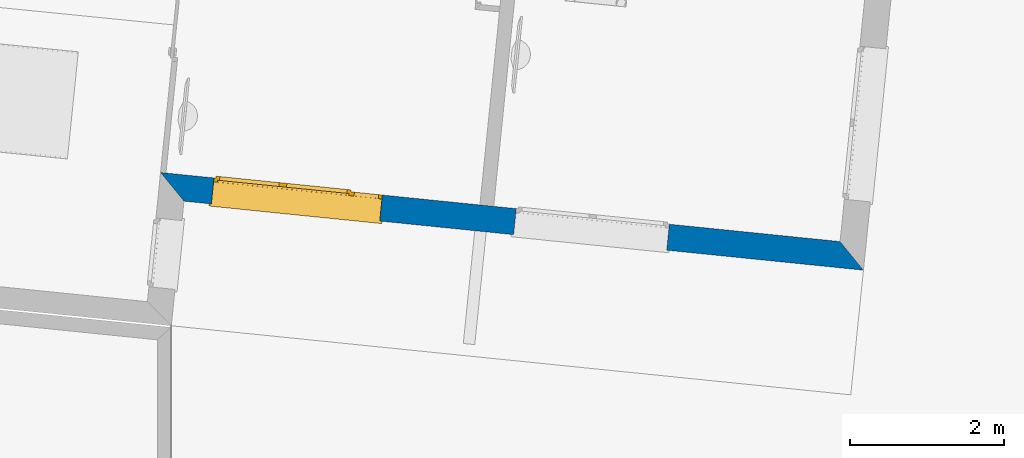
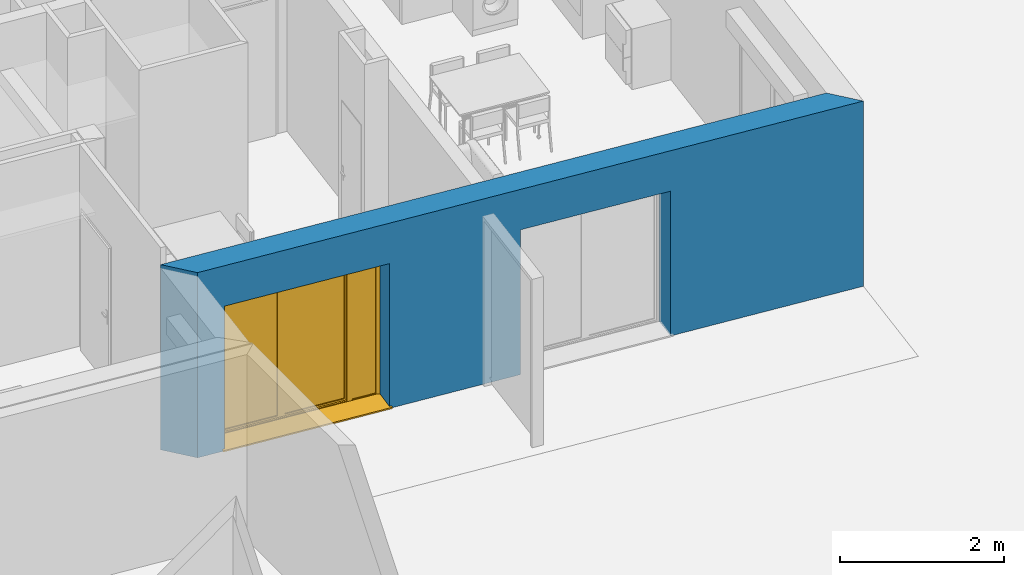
# One storey, part 58 of 171: 1 wall, 1 window, 2 openings.
"""IFC2X3 building model written with IfcOpenShell, lengths in millimetres."""

import ifcopenshell
import ifcopenshell.guid

model = None  # the IFC model being written
_history = None  # IfcOwnerHistory: only IFC2X3 demands one
_inside = {}  # id of a spatial element -> (the spatial element, [elements in it])
_under = {}  # id of a project, library or spatial element -> (it, [spatial elements below it])
_declared = {}  # id of a project -> (the project, [libraries it declares])
_typed = {}  # id of a type object -> (the type object, [elements of that type])
_made_of = {}  # id of a material, layer set ... -> (it, [elements and type objects made of it])


def new_model(schema):
    """Start an empty IFC model of exactly this schema.

    Asked for "IFC4X3", IfcOpenShell would pick the latest addendum, in which some entities
    have other attributes; the version numbers below select the first issue.
    IFC2X3 requires an IfcOwnerHistory on every rooted entity: one is made here for all.
    """
    global model, _history
    if schema == "IFC4X3":
        model = ifcopenshell.file(schema_version=(4, 3, 0, 0))
    else:
        model = ifcopenshell.file(schema=schema)
    _inside.clear()
    _under.clear()
    _declared.clear()
    _typed.clear()
    _made_of.clear()
    _history = None
    if model.schema == "IFC2X3":
        org = make("IfcOrganization", Name="unknown")
        user = make(
            "IfcPersonAndOrganization",
            ThePerson=make("IfcPerson", FamilyName="unknown"),
            TheOrganization=org,
        )
        app = make(
            "IfcApplication",
            ApplicationDeveloper=org,
            Version="unknown",
            ApplicationFullName="unknown",
            ApplicationIdentifier="unknown",
        )
        _history = make(
            "IfcOwnerHistory",
            OwningUser=user,
            OwningApplication=app,
            ChangeAction="ADDED",
            CreationDate=0,
        )
    return model


def make(cls, **values):
    """One entity of the class cls with the attributes given. An attribute that is None is left unset."""
    return model.create_entity(
        cls, **{name: value for name, value in values.items() if value is not None}
    )


def entity(cls, *values):
    """Any entity or typed value of the class cls, its attributes in the order of the schema. None: left unset."""
    e = model.create_entity(cls)
    for i, value in enumerate(values):
        if value is not None:
            e[i] = value
    return e


def rooted(cls, **values):
    """An entity with a GlobalId (a new one), such as an element, a storey or a relation."""
    return make(cls, GlobalId=ifcopenshell.guid.new(), OwnerHistory=_history, **values)


def si_unit(unit_type, name, prefix=None):
    """IfcSIUnit, for example si_unit("LENGTHUNIT", "METRE", prefix="MILLI")."""
    return make("IfcSIUnit", UnitType=unit_type, Prefix=prefix, Name=name)


def converted_unit(unit_type, name, factor, base, dimensions=None, offset=None):
    """IfcConversionBasedUnit, such as the inch: factor (a typed value) times the base unit."""
    return make(
        "IfcConversionBasedUnit"
        if offset is None
        else "IfcConversionBasedUnitWithOffset",
        ConversionOffset=offset,
        Dimensions=None
        if dimensions is None
        else entity("IfcDimensionalExponents", *dimensions),
        UnitType=unit_type,
        Name=name,
        ConversionFactor=make(
            "IfcMeasureWithUnit", ValueComponent=factor, UnitComponent=base
        ),
    )


def derived_unit(unit_type, elements):
    """IfcDerivedUnit: a product of units, each with its exponent."""
    return make(
        "IfcDerivedUnit",
        Elements=[
            make("IfcDerivedUnitElement", Unit=unit, Exponent=power)
            for unit, power in elements
        ],
        UnitType=unit_type,
    )


def money_unit(currency):
    """IfcMonetaryUnit."""
    return make("IfcMonetaryUnit", Currency=currency)


def assignment(units):
    """IfcUnitAssignment: the units of a project."""
    return None if units is None else make("IfcUnitAssignment", Units=units)


def point(xyz):
    """IfcCartesianPoint."""
    return None if xyz is None else make("IfcCartesianPoint", Coordinates=xyz)


def direction(xyz):
    """IfcDirection."""
    return None if xyz is None else make("IfcDirection", DirectionRatios=xyz)


def frame(location, z_axis=None, x_axis=None):
    """IfcAxis2Placement3D, a coordinate frame: its origin and axes. An axis left out is left unset."""
    return make(
        "IfcAxis2Placement3D",
        Location=point(location),
        Axis=direction(z_axis),
        RefDirection=direction(x_axis),
    )


def origin_with_axes():
    """The frame at (0, 0, 0) with the z axis (0, 0, 1) and the x axis (1, 0, 0) written out."""
    return frame((0.0, 0.0, 0.0), z_axis=(0.0, 0.0, 1.0), x_axis=(1.0, 0.0, 0.0))


def place(relative_to, where):
    """IfcLocalPlacement: puts the frame where relative to a parent placement (None: the world)."""
    return make(
        "IfcLocalPlacement", PlacementRelTo=relative_to, RelativePlacement=where
    )


def context(
    kind, dimensions, precision=None, world=None, true_north=None, identifier=None
):
    """IfcGeometricRepresentationContext, for example the 3D "Model" context."""
    return make(
        "IfcGeometricRepresentationContext",
        ContextIdentifier=identifier,
        ContextType=kind,
        CoordinateSpaceDimension=dimensions,
        Precision=precision,
        WorldCoordinateSystem=world,
        TrueNorth=true_north,
    )


def subcontext(parent, identifier, kind, view, scale=None):
    """IfcGeometricRepresentationSubContext, for example "Body" below "Model"."""
    return make(
        "IfcGeometricRepresentationSubContext",
        ContextIdentifier=identifier,
        ContextType=kind,
        ParentContext=parent,
        TargetScale=scale,
        TargetView=view,
    )


def project(units=None, contexts=None):
    """IfcProject with its units and contexts."""
    return rooted(
        "IfcProject",
        Name="project",
        RepresentationContexts=contexts,
        UnitsInContext=assignment(units),
    )


def spatial(cls, under=None, at=None, **own):
    """A site, building, storey or space (cls), placed at a placement, below another one or the project."""
    s = rooted(cls, ObjectPlacement=at, **own)
    if under is not None:
        _under.setdefault(under.id(), (under, []))[1].append(s)
    return s


def polyline(points):
    """IfcPolyline through the points."""
    return make("IfcPolyline", Points=[point(p) for p in points])


def outline(outer, holes=None, kind="AREA"):
    """IfcArbitraryClosedProfileDef: a profile drawn as a closed curve; with holes, ...WithVoids."""
    if holes is None:
        return make("IfcArbitraryClosedProfileDef", ProfileType=kind, OuterCurve=outer)
    return make(
        "IfcArbitraryProfileDefWithVoids",
        ProfileType=kind,
        OuterCurve=outer,
        InnerCurves=holes,
    )


def extrude(swept, where, along, depth):
    """IfcExtrudedAreaSolid: the profile swept, set in the frame where, extruded along a direction by depth."""
    return make(
        "IfcExtrudedAreaSolid",
        SweptArea=swept,
        Position=where,
        ExtrudedDirection=direction(along),
        Depth=depth,
    )


def faces_of(points, faces, orient=None, outer=None):
    """IfcFace entities. A face is a list of loops; a loop is a list of indices into points, from 0.

    orient and outer hold one flag for each loop. By default every Orientation is true, the
    first loop of a face is its IfcFaceOuterBound and the others are IfcFaceBound.
    """
    made = []
    for i, loops in enumerate(faces):
        bounds = []
        for j, loop in enumerate(loops):
            is_outer = j == 0 if outer is None else outer[i][j]
            bounds.append(
                make(
                    "IfcFaceOuterBound" if is_outer else "IfcFaceBound",
                    Bound=make("IfcPolyLoop", Polygon=[points[k] for k in loop]),
                    Orientation=True if orient is None else orient[i][j],
                )
            )
        made.append(make("IfcFace", Bounds=bounds))
    return made


def open_shell(faces, orient=None, outer=None):
    """The faces of one IfcOpenShell. surface_model builds it on its shared points."""
    return ("IfcOpenShell", faces, orient, outer)


def faceted_brep(points, faces, orient=None, outer=None, voids=None):
    """IfcFacetedBrep: a solid bounded by flat faces; with voids (closed shells), ...WithVoids."""
    shared = [point(p) for p in points]
    hull = make("IfcClosedShell", CfsFaces=faces_of(shared, faces, orient, outer))
    if voids is None:
        return make("IfcFacetedBrep", Outer=hull)
    return make(
        "IfcFacetedBrepWithVoids",
        Outer=hull,
        Voids=[
            make(cls, CfsFaces=faces_of(shared, fs, o, b)) for cls, fs, o, b in voids
        ],
    )


def surface_model(cls, points, shells):
    """IfcFaceBasedSurfaceModel or IfcShellBasedSurfaceModel (cls): surfaces that need not close."""
    shared = [point(p) for p in points]
    made = [make(c, CfsFaces=faces_of(shared, fs, o, b)) for c, fs, o, b in shells]
    if cls == "IfcFaceBasedSurfaceModel":
        return make(cls, FbsmFaces=made)
    return make(cls, SbsmBoundary=made)


def shape(context_of_items, identifier, shape_type, items):
    """IfcShapeRepresentation: the items that make up one representation, for example the "Body"."""
    return make(
        "IfcShapeRepresentation",
        ContextOfItems=context_of_items,
        RepresentationIdentifier=identifier,
        RepresentationType=shape_type,
        Items=items,
    )


def source(mapping_origin, context_of_items, identifier, shape_type, items):
    """IfcRepresentationMap: a shape defined once, which mapped items show again and again."""
    return make(
        "IfcRepresentationMap",
        MappingOrigin=mapping_origin,
        MappedRepresentation=shape(context_of_items, identifier, shape_type, items),
    )


def transform(
    local_origin,
    x_axis=None,
    y_axis=None,
    z_axis=None,
    scale=None,
    scale2=None,
    scale3=None,
    uniform=True,
):
    """IfcCartesianTransformationOperator3D, or its non-uniform kind. x_axis, y_axis, z_axis: its Axis1, 2, 3."""
    if uniform:
        return make(
            "IfcCartesianTransformationOperator3D",
            Axis1=direction(x_axis),
            Axis2=direction(y_axis),
            LocalOrigin=point(local_origin),
            Scale=scale,
            Axis3=direction(z_axis),
        )
    return make(
        "IfcCartesianTransformationOperator3DnonUniform",
        Axis1=direction(x_axis),
        Axis2=direction(y_axis),
        LocalOrigin=point(local_origin),
        Scale=scale,
        Axis3=direction(z_axis),
        Scale2=scale2,
        Scale3=scale3,
    )


def mapped(mapping_source, mapping_target):
    """IfcMappedItem: shows the shape of a source again, moved by a transform."""
    return make(
        "IfcMappedItem", MappingSource=mapping_source, MappingTarget=mapping_target
    )


def material(Name=None, Category=None):
    """IfcMaterial."""
    return make("IfcMaterial", Name=Name, Category=Category)


def layer(
    of_material, thickness, ventilated=None, Name=None, Category=None, Priority=None
):
    """IfcMaterialLayer: one layer of a wall or slab, of a material (None: an air gap)."""
    return make(
        "IfcMaterialLayer",
        Material=of_material,
        LayerThickness=thickness,
        IsVentilated=ventilated,
        Name=Name,
        Category=Category,
        Priority=Priority,
    )


def layer_set(layers, Name=None):
    """IfcMaterialLayerSet."""
    return make("IfcMaterialLayerSet", MaterialLayers=layers, LayerSetName=Name)


def layer_usage(for_layer_set, set_direction, sense, offset, extent=None):
    """IfcMaterialLayerSetUsage: how a layer set lies in its element."""
    return make(
        "IfcMaterialLayerSetUsage",
        ForLayerSet=for_layer_set,
        LayerSetDirection=set_direction,
        DirectionSense=sense,
        OffsetFromReferenceLine=offset,
        ReferenceExtent=extent,
    )


def made_of(thing, what):
    """Note that an element or type object is made of a material, layer set ...; save() writes the relation."""
    if what is not None:
        _made_of.setdefault(what.id(), (what, []))[1].append(thing)
    return thing


def type_object(cls, material=None, **own):
    """A type object (cls), such as IfcWallType, which elements share."""
    return made_of(rooted(cls, **own), material)


def element(
    cls,
    number,
    at=None,
    inside=None,
    cuts=None,
    type_object=None,
    material=None,
    context=None,
    identifier="Body",
    shape_type=None,
    held_by="IfcProductDefinitionShape",
    body=None,
    shapes=None,
    **own,
):
    """One element of the class cls, such as IfcWall. Its Tag is "e" and its number.

    at: its placement. inside: the storey or other place that contains it. cuts: it is an
    opening in that element (IfcRelVoidsElement). A single representation is given by context,
    identifier, shape_type and body (its items); several are given by shapes. held_by: the class
    of the entity that holds the representations. save() writes the other relations.
    """
    e = rooted(cls, Tag="e%d" % number, ObjectPlacement=at, **own)
    if body is not None:
        shapes = [shape(context, identifier, shape_type, body)]
    if shapes is not None:
        e.Representation = make(held_by, Representations=shapes)
    if inside is not None:
        _inside.setdefault(inside.id(), (inside, []))[1].append(e)
    if cuts is not None:
        rooted(
            "IfcRelVoidsElement", RelatingBuildingElement=cuts, RelatedOpeningElement=e
        )
    if type_object is not None:
        _typed.setdefault(type_object.id(), (type_object, []))[1].append(e)
    return made_of(e, material)


def fill(opening, filler):
    """IfcRelFillsElement: the door or window that sits in an opening."""
    return rooted(
        "IfcRelFillsElement",
        RelatingOpeningElement=opening,
        RelatedBuildingElement=filler,
    )


def aggregate(whole, parts):
    """IfcRelAggregates: a whole, such as a stair, and the parts it consists of."""
    return rooted("IfcRelAggregates", RelatingObject=whole, RelatedObjects=parts)


def save(model, path):
    """Write the relations noted so far, then the file.

    IfcRelAggregates (storeys below a building ...), IfcRelContainedInSpatialStructure (elements
    in a storey), IfcRelDefinesByType, IfcRelAssociatesMaterial and IfcRelDeclares: one each for
    every whole, place, type object, material and project.
    """
    for whole, parts in _under.values():
        aggregate(whole, parts)
    for where, things in _inside.values():
        rooted(
            "IfcRelContainedInSpatialStructure",
            RelatedElements=things,
            RelatingStructure=where,
        )
    for kind, things in _typed.values():
        rooted("IfcRelDefinesByType", RelatedObjects=things, RelatingType=kind)
    for what, things in _made_of.values():
        rooted("IfcRelAssociatesMaterial", RelatedObjects=things, RelatingMaterial=what)
    for by, libraries in _declared.values():
        rooted("IfcRelDeclares", RelatingContext=by, RelatedDefinitions=libraries)
    model.write(path)


model = new_model("IFC2X3")

# Units and contexts
model_context = context("Model", 3, precision=0.01, world=origin_with_axes(), true_north=direction((0.0, 1.0)))
body_context = subcontext(model_context, "Body", "Model", "MODEL_VIEW")
ifc_project = project(units=[si_unit("LENGTHUNIT", "METRE", prefix="MILLI"), si_unit("AREAUNIT", "SQUARE_METRE"), si_unit("VOLUMEUNIT", "CUBIC_METRE"), converted_unit("PLANEANGLEUNIT", "DEGREE", entity("IfcPlaneAngleMeasure", 0.0174532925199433), si_unit("PLANEANGLEUNIT", "RADIAN"), dimensions=[0, 0, 0, 0, 0, 0, 0]), money_unit("USD"), converted_unit("TIMEUNIT", "Year", entity("IfcTimeMeasure", 31557600.0), si_unit("TIMEUNIT", "SECOND"), dimensions=[0, 0, 1, 0, 0, 0, 0]), si_unit("MASSUNIT", "GRAM", prefix="KILO"), si_unit("THERMODYNAMICTEMPERATUREUNIT", "DEGREE_CELSIUS"), si_unit("LUMINOUSINTENSITYUNIT", "LUMEN"), si_unit("ENERGYUNIT", "JOULE", prefix="MEGA"), derived_unit("THERMALCONDUCTANCEUNIT", [(si_unit("POWERUNIT", "WATT"), 1), (si_unit("LENGTHUNIT", "METRE"), -1), (si_unit("THERMODYNAMICTEMPERATUREUNIT", "KELVIN"), -1)]), derived_unit("SPECIFICHEATCAPACITYUNIT", [(si_unit("ENERGYUNIT", "JOULE"), 1), (si_unit("MASSUNIT", "GRAM", prefix="KILO"), -1), (si_unit("THERMODYNAMICTEMPERATUREUNIT", "KELVIN"), -1)]), derived_unit("MASSDENSITYUNIT", [(si_unit("MASSUNIT", "GRAM", prefix="KILO"), 1), (si_unit("VOLUMEUNIT", "CUBIC_METRE"), -1)])], contexts=[model_context])

# Site, building, storey
site_placement = place(None, origin_with_axes())
site = spatial("IfcSite", under=ifc_project, at=site_placement, Name="Site", CompositionType="ELEMENT")
building_placement = place(site_placement, origin_with_axes())
building = spatial("IfcBuilding", under=site, at=building_placement, Name="Bâtiment", CompositionType="ELEMENT")
storey_placement = place(building_placement, frame((0.0, 0.0, 3000.0), z_axis=(0.0, 0.0, 1.0), x_axis=(1.0, 0.0, 0.0)))
storey = spatial("IfcBuildingStorey", under=building, at=storey_placement, Name="rdc", CompositionType="ELEMENT", Elevation=3000.0)

# Wall, openings, window
ifc_material_1 = material(Name="Parpaing 312445824")
ifc_layer_1 = layer(ifc_material_1, 180.0, ventilated="UNKNOWN")
ifc_material_2 = material(Name="Isolant styromousse 301821074")
ifc_layer_2 = layer(ifc_material_2, 160.0, ventilated="UNKNOWN")
ifc_layer_set = layer_set([ifc_layer_1, ifc_layer_2], Name="isol int 18+16 0018356637")
ifc_layer_usage = layer_usage(ifc_layer_set, "AXIS2", "POSITIVE", 0.0)
wall_type = type_object("IfcWallType", Name="isol int 18+16 0018356637 340", PredefinedType="NOTDEFINED")
wall_placement = place(storey_placement, frame((2229820.133205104, -620392.5899683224, 0.0), z_axis=(0.0, 0.0, 1.0), x_axis=(0.994875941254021, -0.1011032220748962, 0.0)))
wall = element("IfcWallStandardCase", 1, at=wall_placement, inside=storey, type_object=wall_type, material=ifc_layer_usage, Name="Mur-142", context=body_context, shape_type="SweptSolid", body=[
    extrude(outline(polyline([(0.0, 0.0), (8878.452480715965, 0.0), (8538.452480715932, 339.9999999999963), (-339.9999999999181, 339.9999999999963), (0.0, 0.0)])), origin_with_axes(), (0.0, 0.0, 1.0), 2750.0),
])
opening_1_placement = place(wall_placement, frame((1458.062560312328, 0.0, 0.0), z_axis=(0.0, 0.0, 1.0), x_axis=(1.0, 0.0, 0.0)))
opening_1 = element("IfcOpeningElement", 2, at=opening_1_placement, cuts=wall, Name="Fen-133", context=body_context, shape_type="Brep", body=[
    faceted_brep([(-1100.000000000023, 529.9999999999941, 2150.0), (1099.999999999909, 529.9999999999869, 2150.0), (1100.000000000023, 1234.040591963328, 2150.0), (-1099.999999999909, 1234.040591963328, 2150.0), (-1100.000000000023, 529.9999999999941, 2400.0), (1099.999999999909, 529.9999999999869, 2400.0), (1100.000000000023, 289.999999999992, 2150.0), (1100.000000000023, 289.999999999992, 0.0), (1100.000000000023, 1234.040591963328, 0.0), (-1099.999999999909, 1234.040591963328, 0.0), (-1100.000000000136, 289.9999999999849, 2150.0), (-1100.000000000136, 289.9999999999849, 0.0), (-1100.000000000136, 279.9999999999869, 2150.0), (-1100.000000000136, 279.9999999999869, 2400.0), (1100.000000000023, 279.999999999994, 2400.0), (1100.000000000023, 279.999999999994, 2150.0), (1099.999999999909, -894.0405919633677, 2150.0), (1099.999999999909, -894.0405919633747, 0.0), (-1100.000000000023, -894.0405919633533, 0.0), (-1100.000000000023, -894.0405919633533, 2150.0)], [[[0, 1, 2, 3]], [[1, 0, 4, 5]], [[1, 6, 7, 8, 2]], [[2, 8, 9, 3]], [[10, 0, 3, 9, 11]], [[0, 10, 12, 13, 4]], [[14, 5, 4, 13]], [[6, 1, 5, 14, 15]], [[6, 15, 16, 17, 7]], [[7, 17, 18, 11, 9, 8]], [[12, 10, 11, 18, 19]], [[12, 15, 14, 13]], [[15, 12, 19, 16]], [[19, 18, 17, 16]]]),
])
opening_2_placement = place(wall_placement, frame((5307.912898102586, 0.0, 0.0), z_axis=(0.0, 0.0, 1.0), x_axis=(1.0, 0.0, 0.0)))
element("IfcOpeningElement", 3, at=opening_2_placement, cuts=wall, Name="Fen-207", context=body_context, shape_type="Brep", body=[
    faceted_brep([(-1000.000000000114, 529.9999999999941, 2150.0), (1000.0, 529.9999999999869, 2150.0), (1000.0, 1234.040591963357, 2150.0), (-1000.0, 1234.040591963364, 2150.0), (-1000.000000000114, 529.9999999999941, 2400.0), (1000.0, 529.9999999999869, 2400.0), (999.9999999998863, 289.9999999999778, 2150.0), (999.9999999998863, 289.9999999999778, 0.0), (1000.0, 1234.040591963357, 0.0), (-1000.0, 1234.040591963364, 0.0), (-1000.000000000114, 289.9999999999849, 2150.0), (-1000.000000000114, 289.9999999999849, 0.0), (-1000.0, 279.9999999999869, 2150.0), (-1000.0, 279.9999999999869, 2400.0), (999.9999999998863, 279.999999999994, 2400.0), (999.9999999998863, 279.999999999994, 2150.0), (999.9999999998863, -894.0405919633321, 2150.0), (999.9999999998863, -894.0405919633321, 0.0), (-1000.0, -894.0405919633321, 0.0), (-1000.0, -894.0405919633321, 2150.0)], [[[0, 1, 2, 3]], [[1, 0, 4, 5]], [[1, 6, 7, 8, 2]], [[2, 8, 9, 3]], [[10, 0, 3, 9, 11]], [[0, 10, 12, 13, 4]], [[14, 5, 4, 13]], [[6, 1, 5, 14, 15]], [[6, 15, 16, 17, 7]], [[7, 17, 18, 11, 9, 8]], [[12, 10, 11, 18, 19]], [[12, 15, 14, 13]], [[15, 12, 19, 16]], [[19, 18, 17, 16]]]),
])
window_style = type_object("IfcWindowStyle", Name="Fenêtre châssis double variable 27", ConstructionType="NOTDEFINED", OperationType="TRIPLE_PANEL_VERTICAL", ParameterTakesPrecedence=False, Sizeable=False)
shared_shape = source(origin_with_axes(), body_context, "Body", "SurfaceModel", [
    surface_model("IfcShellBasedSurfaceModel", [(1100.0, -51.0, 40.00000000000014), (1100.0, -51.0, 50.00000000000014), (-1100.0, -51.0, 50.0), (-1100.0, -51.0, 40.0), (1130.0, -369.9999999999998, 28.96551724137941), (1130.0, -339.9999999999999, 30.00324289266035), (1100.0, -339.9999999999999, 30.00324289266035), (-1100.0, -339.9999999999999, 30.00324289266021), (-1130.0, -339.9999999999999, 30.00324289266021), (-1130.0, -369.9999999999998, 28.96551724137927), (1130.0, -369.9999999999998, 8.965517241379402), (-1130.0, -369.9999999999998, 8.965517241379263), (1130.0, -359.9999999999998, 18.9655172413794), (-1130.0, -359.9999999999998, 18.96551724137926)], [open_shell([[[0, 1, 2, 3]], [[4, 5, 6, 0, 3, 7, 8, 9]], [[10, 4, 9, 11]], [[12, 10, 11, 13]]])]),
    faceted_brep([(-1100.0, -60.0, 2400.0), (-1097.0, -60.0, 2400.0), (-1097.0, 189.9999999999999, 2400.0), (-1100.0, 189.9999999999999, 2400.0), (-1100.0, -60.0, 2150.0), (-1097.0, -60.0, 2150.0), (-1097.0, 189.9999999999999, 2150.0), (-1100.0, 189.9999999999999, 2150.0)], [[[0, 1, 2, 3]], [[4, 5, 1, 0]], [[1, 5, 6, 2]], [[3, 2, 6, 7]], [[0, 3, 7, 4]], [[7, 6, 5, 4]]]),
    faceted_brep([(1097.0, -59.99999999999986, 2400.0), (1100.0, -59.99999999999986, 2400.0), (1100.0, 190.0000000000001, 2400.0), (1097.0, 190.0000000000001, 2400.0), (1097.0, -59.99999999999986, 2150.0), (1100.0, -59.99999999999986, 2150.0), (1100.0, 190.0000000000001, 2150.0), (1097.0, 190.0000000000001, 2150.0)], [[[0, 1, 2, 3]], [[4, 5, 1, 0]], [[1, 5, 6, 2]], [[3, 2, 6, 7]], [[0, 3, 7, 4]], [[7, 6, 5, 4]]]),
    faceted_brep([(-1097.0, -59.99999999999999, 2150.0), (1097.0, -59.99999999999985, 2150.0), (1097.0, -59.99999999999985, 2400.0), (-1097.0, -59.99999999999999, 2400.0), (-1097.0, -56.99999999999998, 2150.0), (1097.0, -56.99999999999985, 2150.0), (1097.0, -56.99999999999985, 2397.0), (1097.0, 187.0000000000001, 2397.0), (1097.0, 187.0000000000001, 2153.0), (1097.0, -37.99999999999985, 2153.0), (1097.0, -37.99999999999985, 2150.0), (1097.0, 190.0000000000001, 2150.0), (1097.0, 190.0000000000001, 2400.0), (-1097.0, 189.9999999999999, 2400.0), (-1097.0, 189.9999999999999, 2150.0), (-1097.0, -37.99999999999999, 2150.0), (-1097.0, -37.99999999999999, 2153.0), (-1097.0, 187.0, 2153.0), (-1097.0, 187.0, 2397.0), (-1097.0, -56.99999999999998, 2397.0)], [[[0, 1, 2, 3]], [[4, 5, 1, 0]], [[1, 5, 6, 7, 8, 9, 10, 11, 12, 2]], [[3, 2, 12, 13]], [[0, 3, 13, 14, 15, 16, 17, 18, 19, 4]], [[19, 6, 5, 4]], [[18, 7, 6, 19]], [[17, 8, 7, 18]], [[16, 9, 8, 17]], [[15, 10, 9, 16]], [[14, 11, 10, 15]], [[13, 12, 11, 14]]]),
    faceted_brep([(-1094.0, -40.37442957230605, 2256.419644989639), (-1094.0, -41.99999999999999, 2275.0), (-1094.0, -40.37442957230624, 2293.580355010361), (-1094.0, -35.54711042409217, 2311.596155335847), (-1094.0, -27.66471820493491, 2328.5), (-1094.0, -16.96675541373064, 2343.77827423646), (-1094.0, -3.778274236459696, 2356.96675541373), (-1094.0, 11.5, 2367.664718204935), (-1094.0, 28.40384466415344, 2375.547110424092), (-1094.0, 46.41964498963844, 2380.374429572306), (-1094.0, 64.99999999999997, 2382.0), (-1094.0, 83.58035501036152, 2380.374429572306), (-1094.0, 101.5961553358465, 2375.547110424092), (-1094.0, 118.4999999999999, 2367.664718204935), (-1094.0, 133.7782742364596, 2356.96675541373), (-1094.0, 146.9667554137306, 2343.77827423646), (-1094.0, 157.6647182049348, 2328.5), (-1094.0, 165.5471104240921, 2311.596155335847), (-1094.0, 170.3744295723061, 2293.580355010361), (-1094.0, 171.9999999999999, 2275.0), (-1094.0, 170.3744295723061, 2256.419644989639), (-1094.0, 165.5471104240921, 2238.403844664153), (-1094.0, 157.6647182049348, 2221.5), (-1094.0, 146.9667554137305, 2206.22172576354), (-1094.0, 133.7782742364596, 2193.033244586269), (-1094.0, 118.4999999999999, 2182.335281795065), (-1094.0, 101.5961553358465, 2174.452889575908), (-1094.0, 83.58035501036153, 2169.625570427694), (-1094.0, 65.0, 2168.0), (-1094.0, 46.41964498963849, 2169.625570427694), (-1094.0, 28.40384466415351, 2174.452889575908), (-1094.0, 11.5000000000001, 2182.335281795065), (-1094.0, -3.778274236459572, 2193.033244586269), (-1094.0, -16.96675541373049, 2206.22172576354), (-1094.0, -27.66471820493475, 2221.5), (-1094.0, -35.54711042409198, 2238.403844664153), (1094.0, -40.37442957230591, 2256.419644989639), (1094.0, -41.99999999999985, 2275.0), (1094.0, -40.3744295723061, 2293.580355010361), (1094.0, -35.54711042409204, 2311.596155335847), (1094.0, -27.66471820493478, 2328.5), (1094.0, -16.9667554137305, 2343.77827423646), (1094.0, -3.778274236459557, 2356.96675541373), (1094.0, 11.50000000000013, 2367.664718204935), (1094.0, 28.40384466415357, 2375.547110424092), (1094.0, 46.41964498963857, 2380.374429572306), (1094.0, 65.00000000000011, 2382.0), (1094.0, 83.58035501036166, 2380.374429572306), (1094.0, 101.5961553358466, 2375.547110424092), (1094.0, 118.5000000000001, 2367.664718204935), (1094.0, 133.7782742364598, 2356.96675541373), (1094.0, 146.9667554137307, 2343.77827423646), (1094.0, 157.664718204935, 2328.5), (1094.0, 165.5471104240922, 2311.596155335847), (1094.0, 170.3744295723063, 2293.580355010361), (1094.0, 172.0, 2275.0), (1094.0, 170.3744295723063, 2256.419644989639), (1094.0, 165.5471104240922, 2238.403844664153), (1094.0, 157.6647182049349, 2221.5), (1094.0, 146.9667554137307, 2206.22172576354), (1094.0, 133.7782742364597, 2193.033244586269), (1094.0, 118.5000000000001, 2182.335281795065), (1094.0, 101.5961553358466, 2174.452889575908), (1094.0, 83.58035501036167, 2169.625570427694), (1094.0, 65.00000000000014, 2168.0), (1094.0, 46.41964498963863, 2169.625570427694), (1094.0, 28.40384466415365, 2174.452889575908), (1094.0, 11.50000000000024, 2182.335281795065), (1094.0, -3.778274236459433, 2193.033244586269), (1094.0, -16.96675541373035, 2206.22172576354), (1094.0, -27.66471820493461, 2221.5), (1094.0, -35.54711042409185, 2238.403844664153)], [[[0, 1, 2, 3, 4, 5, 6, 7, 8, 9, 10, 11, 12, 13, 14, 15, 16, 17, 18, 19, 20, 21, 22, 23, 24, 25, 26, 27, 28, 29, 30, 31, 32, 33, 34, 35]], [[0, 36, 37, 1]], [[1, 37, 38, 2]], [[2, 38, 39, 3]], [[3, 39, 40, 4]], [[4, 40, 41, 5]], [[5, 41, 42, 6]], [[6, 42, 43, 7]], [[7, 43, 44, 8]], [[8, 44, 45, 9]], [[9, 45, 46, 10]], [[10, 46, 47, 11]], [[11, 47, 48, 12]], [[12, 48, 49, 13]], [[13, 49, 50, 14]], [[14, 50, 51, 15]], [[15, 51, 52, 16]], [[16, 52, 53, 17]], [[17, 53, 54, 18]], [[18, 54, 55, 19]], [[19, 55, 56, 20]], [[20, 56, 57, 21]], [[21, 57, 58, 22]], [[22, 58, 59, 23]], [[23, 59, 60, 24]], [[24, 60, 61, 25]], [[25, 61, 62, 26]], [[26, 62, 63, 27]], [[27, 63, 64, 28]], [[28, 64, 65, 29]], [[29, 65, 66, 30]], [[30, 66, 67, 31]], [[31, 67, 68, 32]], [[32, 68, 69, 33]], [[33, 69, 70, 34]], [[34, 70, 71, 35]], [[35, 71, 36, 0]], [[36, 71, 70, 69, 68, 67, 66, 65, 64, 63, 62, 61, 60, 59, 58, 57, 56, 55, 54, 53, 52, 51, 50, 49, 48, 47, 46, 45, 44, 43, 42, 41, 40, 39, 38, 37]]]),
    faceted_brep([(1100.0, -34.99999999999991, 30.0), (1100.0, -34.99999999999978, 2150.0), (1100.0, -59.99999999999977, 2150.0), (1100.0, -59.99999999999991, 30.0), (1075.0, -34.99999999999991, 30.0), (1075.0, -34.99999999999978, 2150.0), (1075.0, -37.99999999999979, 2150.0), (1097.0, -37.99999999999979, 2150.0), (1097.0, -56.99999999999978, 2150.0), (1075.0, -56.99999999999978, 2150.0), (1075.0, -59.99999999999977, 2150.0), (1075.0, -59.99999999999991, 30.0), (1075.0, -56.99999999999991, 30.0), (1097.0, -56.99999999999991, 30.0), (1097.0, -37.99999999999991, 30.0), (1075.0, -37.99999999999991, 30.0)], [[[0, 1, 2, 3]], [[4, 5, 1, 0]], [[1, 5, 6, 7, 8, 9, 10, 2]], [[3, 2, 10, 11]], [[0, 3, 11, 12, 13, 14, 15, 4]], [[15, 6, 5, 4]], [[14, 7, 6, 15]], [[13, 8, 7, 14]], [[12, 9, 8, 13]], [[11, 10, 9, 12]]]),
    faceted_brep([(-1100.0, -34.99999999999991, 30.0), (-1100.0, -59.99999999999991, 30.0), (-1100.0, -59.99999999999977, 2150.0), (-1100.0, -34.99999999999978, 2150.0), (-1075.0, -34.99999999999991, 30.0), (-1075.0, -37.99999999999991, 30.0), (-1097.0, -37.99999999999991, 30.0), (-1097.0, -56.99999999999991, 30.0), (-1075.0, -56.99999999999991, 30.0), (-1075.0, -59.99999999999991, 30.0), (-1075.0, -59.99999999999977, 2150.0), (-1075.0, -56.99999999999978, 2150.0), (-1097.0, -56.99999999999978, 2150.0), (-1097.0, -37.99999999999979, 2150.0), (-1075.0, -37.99999999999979, 2150.0), (-1075.0, -34.99999999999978, 2150.0)], [[[0, 1, 2, 3]], [[0, 4, 5, 6, 7, 8, 9, 1]], [[1, 9, 10, 2]], [[3, 2, 10, 11, 12, 13, 14, 15]], [[4, 0, 3, 15]], [[5, 4, 15, 14]], [[6, 5, 14, 13]], [[7, 6, 13, 12]], [[8, 7, 12, 11]], [[9, 8, 11, 10]]]),
    faceted_brep([(1097.0, -46.6666666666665, 2275.0), (1097.0, -46.6666666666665, 2266.666666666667), (-1097.0, -46.66666666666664, 2266.666666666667), (-1097.0, -46.66666666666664, 2275.0), (1097.0, -51.66666666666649, 2275.0), (1097.0, -51.66666666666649, 2266.666666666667), (1097.0, -49.99999999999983, 2250.0), (1097.0, -44.99999999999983, 2250.0), (-1097.0, -44.99999999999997, 2250.0), (-1097.0, -49.99999999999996, 2250.0), (-1097.0, -51.66666666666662, 2266.666666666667), (-1097.0, -51.66666666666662, 2275.0)], [[[0, 1, 2, 3]], [[4, 5, 6, 7, 1, 0]], [[2, 1, 7, 8]], [[3, 2, 8, 9, 10, 11]], [[3, 11, 4, 0]], [[10, 5, 4, 11]], [[9, 6, 5, 10]], [[8, 7, 6, 9]]]),
    faceted_brep([(-1097.0, -44.99999999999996, 2250.0), (1097.0, -44.99999999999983, 2250.0), (1097.0, -46.6666666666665, 2233.333333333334), (-1097.0, -46.66666666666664, 2233.333333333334), (-1097.0, -49.99999999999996, 2250.0), (1097.0, -49.99999999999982, 2250.0), (1097.0, -51.66666666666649, 2233.333333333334), (1097.0, -51.66666666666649, 2216.666666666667), (1097.0, -49.99999999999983, 2200.0), (1097.0, -44.99999999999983, 2200.0), (1097.0, -46.6666666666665, 2216.666666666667), (-1097.0, -46.66666666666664, 2216.666666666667), (-1097.0, -44.99999999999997, 2200.0), (-1097.0, -49.99999999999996, 2200.0), (-1097.0, -51.66666666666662, 2216.666666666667), (-1097.0, -51.66666666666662, 2233.333333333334)], [[[0, 1, 2, 3]], [[4, 5, 1, 0]], [[1, 5, 6, 7, 8, 9, 10, 2]], [[3, 2, 10, 11]], [[0, 3, 11, 12, 13, 14, 15, 4]], [[15, 6, 5, 4]], [[14, 7, 6, 15]], [[13, 8, 7, 14]], [[12, 9, 8, 13]], [[11, 10, 9, 12]]]),
    faceted_brep([(-1097.0, -44.99999999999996, 2200.0), (1097.0, -44.99999999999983, 2200.0), (1097.0, -46.6666666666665, 2183.333333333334), (-1097.0, -46.66666666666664, 2183.333333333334), (-1097.0, -49.99999999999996, 2200.0), (1097.0, -49.99999999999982, 2200.0), (1097.0, -51.66666666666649, 2183.333333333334), (1097.0, -51.66666666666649, 2166.666666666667), (1097.0, -49.99999999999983, 2150.000000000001), (1097.0, -44.99999999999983, 2150.000000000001), (1097.0, -46.6666666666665, 2166.666666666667), (-1097.0, -46.66666666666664, 2166.666666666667), (-1097.0, -44.99999999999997, 2150.000000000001), (-1097.0, -49.99999999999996, 2150.000000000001), (-1097.0, -51.66666666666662, 2166.666666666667), (-1097.0, -51.66666666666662, 2183.333333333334)], [[[0, 1, 2, 3]], [[4, 5, 1, 0]], [[1, 5, 6, 7, 8, 9, 10, 2]], [[3, 2, 10, 11]], [[0, 3, 11, 12, 13, 14, 15, 4]], [[15, 6, 5, 4]], [[14, 7, 6, 15]], [[13, 8, 7, 14]], [[12, 9, 8, 13]], [[11, 10, 9, 12]]]),
    faceted_brep([(-1075.0, 0.0, 2100.0), (-1100.0, 0.0, 2100.0), (-1100.0, -50.00000000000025, 2100.0), (-1050.0, -50.00000000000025, 2100.0), (-1050.0, -25.00000000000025, 2100.0), (-1075.0, -25.00000000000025, 2100.0), (-1075.0, 0.0, 50.00000000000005), (-1100.0, 0.0, 50.00000000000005), (-1100.0, -49.99999999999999, 50.00000000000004), (-1050.0, -49.99999999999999, 50.00000000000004), (-1050.0, -25.0, 50.00000000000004), (-1075.0, -25.0, 50.00000000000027)], [[[0, 1, 2, 3, 4, 5]], [[6, 7, 1, 0]], [[1, 7, 8, 2]], [[2, 8, 9, 3]], [[4, 3, 9, 10]], [[10, 11, 5, 4]], [[5, 11, 6, 0]], [[11, 10, 9, 8, 7, 6]]]),
    faceted_brep([(664.9999999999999, -25.00000000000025, 2100.0), (664.9999999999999, -50.00000000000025, 2100.0), (735.0, -50.00000000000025, 2100.0), (735.0, 0.0, 2100.0), (690.0, 0.0, 2100.0), (690.0, -25.00000000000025, 2100.0), (664.9999999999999, -25.0, 50.00000000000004), (664.9999999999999, -49.99999999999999, 50.00000000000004), (735.0, -49.99999999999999, 50.00000000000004), (735.0, 0.0, 50.00000000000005), (690.0, 0.0, 50.00000000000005), (690.0, -25.0, 50.00000000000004)], [[[0, 1, 2, 3, 4, 5]], [[6, 7, 1, 0]], [[8, 2, 1, 7]], [[9, 3, 2, 8]], [[4, 3, 9, 10]], [[10, 11, 5, 4]], [[5, 11, 6, 0]], [[11, 10, 9, 8, 7, 6]]]),
    faceted_brep([(664.9999999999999, -25.0, 50.00000000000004), (664.9999999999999, -49.99999999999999, 50.00000000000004), (735.0, -49.99999999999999, 50.00000000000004), (735.0, 0.0, 50.00000000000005), (690.0, 0.0, 50.00000000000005), (690.0, -25.0, 50.00000000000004), (-1050.0, -25.0, 50.00000000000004), (-1050.0, -49.99999999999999, 50.00000000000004), (-1100.0, -49.99999999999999, 50.00000000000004), (-1100.0, -49.99999999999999, 0.0), (1100.0, -49.99999999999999, 0.0), (1100.0, -49.99999999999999, 50.00000000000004), (1050.0, -49.99999999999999, 50.00000000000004), (1050.0, 0.0, 50.00000000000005), (-1075.0, 0.0, 24.99999999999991), (690.0, 0.0, 24.99999999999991), (1100.0, 0.0, 50.00000000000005), (1100.0, 0.0, 0.0), (-1100.0, 0.0, 0.0), (-1100.0, 0.0, 50.00000000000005), (-1075.0, 0.0, 50.00000000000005), (690.0, -25.0, 24.99999999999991), (-1075.0, -25.0, 24.99999999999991), (-1075.0, -25.0, 50.00000000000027)], [[[0, 1, 2, 3, 4, 5]], [[6, 7, 1, 0]], [[8, 9, 10, 11, 12, 2, 1, 7]], [[13, 3, 2, 12]], [[14, 15, 4, 3, 13, 16, 17, 18, 19, 20]], [[15, 21, 5, 4]], [[5, 21, 22, 23, 6, 0]], [[23, 20, 19, 8, 7, 6]], [[19, 18, 9, 8]], [[18, 17, 10, 9]], [[17, 16, 11, 10]], [[16, 13, 12, 11]], [[14, 22, 21, 15]], [[23, 22, 14, 20]]]),
    faceted_brep([(-1075.0, 0.0, 2100.0), (-1100.0, 0.0, 2100.0), (-1100.0, 0.0, 2150.0), (1100.0, 0.0, 2150.0), (1100.0, 0.0, 2100.0), (1050.0, 0.0, 2100.0), (735.0, 0.0, 2100.0), (690.0, 0.0, 2100.0), (690.0, 0.0, 2125.0), (-1075.0, 0.0, 2125.0), (-1075.0, -25.00000000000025, 2100.0), (-1050.0, -25.00000000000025, 2100.0), (-1050.0, -50.00000000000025, 2100.0), (-1100.0, -50.00000000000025, 2100.0), (-1100.0, -50.00000000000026, 2150.0), (1100.0, -50.00000000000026, 2150.0), (1100.0, -50.00000000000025, 2100.0), (1050.0, -50.00000000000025, 2100.0), (735.0, -50.00000000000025, 2100.0), (690.0, -25.00000000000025, 2100.0), (664.9999999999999, -50.00000000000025, 2100.0), (664.9999999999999, -25.00000000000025, 2100.0), (690.0, -25.00000000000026, 2125.0), (-1075.0, -25.00000000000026, 2125.0)], [[[0, 1, 2, 3, 4, 5, 6, 7, 8, 9]], [[10, 11, 12, 13, 1, 0]], [[2, 1, 13, 14]], [[3, 2, 14, 15]], [[4, 3, 15, 16]], [[5, 4, 16, 17]], [[6, 5, 17, 18]], [[19, 7, 6, 18, 20, 21]], [[7, 19, 22, 8]], [[8, 22, 23, 9]], [[9, 23, 10, 0]], [[21, 11, 10, 23, 22, 19]], [[21, 20, 12, 11]], [[18, 17, 16, 15, 14, 13, 12, 20]]]),
    faceted_brep([(1050.0, -49.99999999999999, 50.0), (1050.0, 0.0, 50.00000000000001), (1100.0, 0.0, 50.00000000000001), (1100.0, -49.99999999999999, 50.0), (1050.0, -50.00000000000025, 2100.0), (1050.0, 0.0, 2100.0), (1100.0, 0.0, 2100.0), (1100.0, -50.00000000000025, 2100.0)], [[[0, 1, 2, 3]], [[4, 5, 1, 0]], [[1, 5, 6, 2]], [[3, 2, 6, 7]], [[0, 3, 7, 4]], [[7, 6, 5, 4]]]),
    faceted_brep([(-1025.0, -25.00000000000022, 2075.0), (-1025.0, 24.99999999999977, 2075.0), (-1075.0, 24.99999999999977, 2075.0), (-1075.0, -25.00000000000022, 2075.0), (-1025.0, -24.99999999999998, 75.00000000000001), (-1025.0, 25.00000000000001, 75.00000000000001), (-1075.0, 25.00000000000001, 75.00000000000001), (-1075.0, -24.99999999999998, 75.00000000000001)], [[[0, 1, 2, 3]], [[4, 5, 1, 0]], [[1, 5, 6, 2]], [[3, 2, 6, 7]], [[0, 3, 7, 4]], [[7, 6, 5, 4]]]),
    faceted_brep([(-249.9999999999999, -25.00000000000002, 75.00000000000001), (-249.9999999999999, 24.99999999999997, 75.00000000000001), (-199.9999999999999, 24.99999999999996, 75.00000000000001), (-199.9999999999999, -25.00000000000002, 75.00000000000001), (-249.9999999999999, -25.00000000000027, 2075.0), (-249.9999999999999, 24.99999999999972, 2075.0), (-199.9999999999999, 24.99999999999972, 2075.0), (-199.9999999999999, -25.00000000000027, 2075.0)], [[[0, 1, 2, 3]], [[4, 5, 1, 0]], [[1, 5, 6, 2]], [[3, 2, 6, 7]], [[0, 3, 7, 4]], [[7, 6, 5, 4]]]),
    faceted_brep([(-199.9999999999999, -25.00000000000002, 25.0), (-199.9999999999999, 24.99999999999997, 25.00000000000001), (-199.9999999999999, 24.99999999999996, 75.00000000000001), (-199.9999999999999, -25.00000000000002, 75.00000000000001), (-1075.0, -24.99999999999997, 25.0), (-1075.0, 25.00000000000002, 25.00000000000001), (-1075.0, 25.00000000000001, 75.00000000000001), (-1025.0, 25.00000000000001, 75.00000000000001), (-249.9999999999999, 24.99999999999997, 75.00000000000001), (-249.9999999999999, -25.00000000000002, 75.00000000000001), (-1025.0, -24.99999999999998, 75.00000000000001), (-1075.0, -24.99999999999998, 75.00000000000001)], [[[0, 1, 2, 3]], [[4, 5, 1, 0]], [[1, 5, 6, 7, 8, 2]], [[3, 2, 8, 9]], [[0, 3, 9, 10, 11, 4]], [[11, 6, 5, 4]], [[10, 7, 6, 11]], [[9, 8, 7, 10]]]),
    faceted_brep([(-1075.0, -25.00000000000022, 2125.0), (-1075.0, 24.99999999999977, 2125.0), (-1075.0, 24.99999999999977, 2075.0), (-1075.0, -25.00000000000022, 2075.0), (-199.9999999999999, -25.00000000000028, 2125.0), (-199.9999999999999, 24.99999999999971, 2125.0), (-199.9999999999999, 24.99999999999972, 2075.0), (-249.9999999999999, 24.99999999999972, 2075.0), (-1025.0, 24.99999999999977, 2075.0), (-1025.0, -25.00000000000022, 2075.0), (-249.9999999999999, -25.00000000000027, 2075.0), (-199.9999999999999, -25.00000000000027, 2075.0)], [[[0, 1, 2, 3]], [[4, 5, 1, 0]], [[1, 5, 6, 7, 8, 2]], [[3, 2, 8, 9]], [[0, 3, 9, 10, 11, 4]], [[11, 6, 5, 4]], [[10, 7, 6, 11]], [[9, 8, 7, 10]]]),
    surface_model("IfcShellBasedSurfaceModel", [(-1025.0, -10.00000000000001, 75.00000000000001), (-249.9999999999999, -10.00000000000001, 75.00000000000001), (-249.9999999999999, -10.00000000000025, 2075.0), (-1025.0, -10.00000000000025, 2075.0)], [open_shell([[[0, 1, 2, 3]]])]),
    surface_model("IfcShellBasedSurfaceModel", [(-1025.0, 9.999999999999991, 75.00000000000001), (-1025.0, 9.99999999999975, 2075.0), (-249.9999999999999, 9.99999999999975, 2075.0), (-249.9999999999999, 9.999999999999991, 75.00000000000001)], [open_shell([[[0, 1, 2, 3]]])]),
    faceted_brep([(-149.9999999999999, -25.00000000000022, 2075.0), (-149.9999999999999, 24.99999999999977, 2075.0), (-199.9999999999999, 24.99999999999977, 2075.0), (-199.9999999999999, -25.00000000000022, 2075.0), (-149.9999999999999, -24.99999999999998, 75.00000000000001), (-149.9999999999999, 25.00000000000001, 75.00000000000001), (-199.9999999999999, 25.00000000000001, 75.00000000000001), (-199.9999999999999, -24.99999999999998, 75.00000000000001)], [[[0, 1, 2, 3]], [[4, 5, 1, 0]], [[1, 5, 6, 2]], [[3, 2, 6, 7]], [[0, 3, 7, 4]], [[7, 6, 5, 4]]]),
    faceted_brep([(640.0, -25.00000000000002, 75.00000000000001), (640.0, 24.99999999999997, 75.00000000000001), (690.0, 24.99999999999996, 75.00000000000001), (690.0, -25.00000000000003, 75.00000000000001), (640.0, -25.00000000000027, 2075.0), (640.0, 24.99999999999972, 2075.0), (690.0, 24.99999999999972, 2075.0), (690.0, -25.00000000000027, 2075.0)], [[[0, 1, 2, 3]], [[4, 5, 1, 0]], [[1, 5, 6, 2]], [[3, 2, 6, 7]], [[0, 3, 7, 4]], [[7, 6, 5, 4]]]),
    faceted_brep([(690.0, -25.00000000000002, 25.0), (690.0, 24.99999999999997, 25.00000000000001), (690.0, 24.99999999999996, 75.00000000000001), (690.0, -25.00000000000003, 75.00000000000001), (-199.9999999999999, -24.99999999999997, 25.0), (-199.9999999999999, 25.00000000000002, 25.00000000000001), (-199.9999999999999, 25.00000000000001, 75.00000000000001), (-149.9999999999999, 25.00000000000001, 75.00000000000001), (640.0, 24.99999999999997, 75.00000000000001), (640.0, -25.00000000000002, 75.00000000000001), (-149.9999999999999, -24.99999999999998, 75.00000000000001), (-199.9999999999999, -24.99999999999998, 75.00000000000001)], [[[0, 1, 2, 3]], [[4, 5, 1, 0]], [[1, 5, 6, 7, 8, 2]], [[3, 2, 8, 9]], [[0, 3, 9, 10, 11, 4]], [[11, 6, 5, 4]], [[10, 7, 6, 11]], [[9, 8, 7, 10]]]),
    faceted_brep([(-199.9999999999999, -25.00000000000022, 2125.0), (-199.9999999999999, 24.99999999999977, 2125.0), (-199.9999999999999, 24.99999999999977, 2075.0), (-199.9999999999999, -25.00000000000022, 2075.0), (690.0, -25.00000000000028, 2125.0), (690.0, 24.99999999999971, 2125.0), (690.0, 24.99999999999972, 2075.0), (640.0, 24.99999999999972, 2075.0), (-149.9999999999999, 24.99999999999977, 2075.0), (-149.9999999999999, -25.00000000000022, 2075.0), (640.0, -25.00000000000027, 2075.0), (690.0, -25.00000000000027, 2075.0)], [[[0, 1, 2, 3]], [[4, 5, 1, 0]], [[1, 5, 6, 7, 8, 2]], [[3, 2, 8, 9]], [[0, 3, 9, 10, 11, 4]], [[11, 6, 5, 4]], [[10, 7, 6, 11]], [[9, 8, 7, 10]]]),
    surface_model("IfcShellBasedSurfaceModel", [(-149.9999999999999, -10.00000000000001, 75.00000000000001), (640.0, -10.00000000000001, 75.00000000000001), (640.0, -10.00000000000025, 2075.0), (-149.9999999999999, -10.00000000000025, 2075.0)], [open_shell([[[0, 1, 2, 3]]])]),
    surface_model("IfcShellBasedSurfaceModel", [(-149.9999999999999, 9.999999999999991, 75.00000000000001), (-149.9999999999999, 9.99999999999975, 2075.0), (640.0, 9.99999999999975, 2075.0), (640.0, 9.999999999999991, 75.00000000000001)], [open_shell([[[0, 1, 2, 3]]])]),
    surface_model("IfcShellBasedSurfaceModel", [(735.0, -34.99999999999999, 49.99999999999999), (1050.0, -34.99999999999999, 49.99999999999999), (1050.0, -35.00000000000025, 2100.0), (735.0, -35.00000000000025, 2100.0)], [open_shell([[[0, 1, 2, 3]]])]),
    surface_model("IfcShellBasedSurfaceModel", [(735.0, -15.0, 49.99999999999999), (735.0, -15.00000000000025, 2100.0), (1050.0, -15.00000000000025, 2100.0), (1050.0, -15.0, 49.99999999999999)], [open_shell([[[0, 1, 2, 3]]])]),
])
window_placement = place(opening_1_placement, frame((-1099.999999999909, 0.0, 0.0), z_axis=(0.0, 0.0, 1.0), x_axis=(1.0, 0.0, 0.0)))
window = element("IfcWindow", 4, at=window_placement, inside=storey, type_object=window_style, Name="Fen-133", OverallHeight=2150.0, OverallWidth=2200.0, context=body_context, shape_type="MappedRepresentation", body=[
    mapped(shared_shape, transform((1099.999999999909, 339.9999999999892, 0.0))),
])
fill(opening_1, window)

save(model, "model.ifc")
